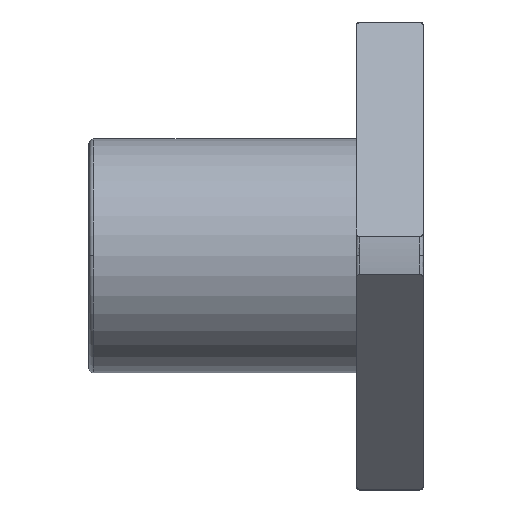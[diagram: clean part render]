
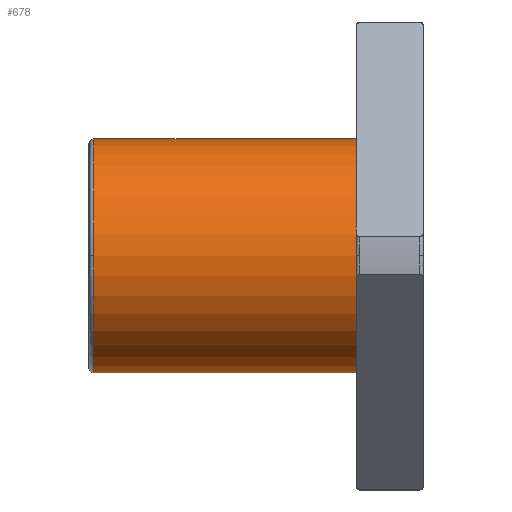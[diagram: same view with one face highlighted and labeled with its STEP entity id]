
A CAD part, top view. The second image highlights one B-rep face of the part: STEP entity #678.
In plain terms, the highlighted cylindrical face has radius 10.5 mm (diameter 21 mm), a partial arc.
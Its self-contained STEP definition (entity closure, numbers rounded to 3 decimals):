
#663 = PLANE('',#664);
#664 = AXIS2_PLACEMENT_3D('',#665,#666,#667);
#665 = CARTESIAN_POINT('',(-6.,15.6,0.));
#666 = DIRECTION('',(-1.,0.,0.));
#667 = DIRECTION('',(0.,-1.,0.));
#678 = ADVANCED_FACE('',(#679),#693,.T.);
#679 = FACE_BOUND('',#680,.T.);
#680 = EDGE_LOOP('',(#681,#716,#745,#774,#797));
#681 = ORIENTED_EDGE('',*,*,#682,.F.);
#682 = EDGE_CURVE('',#683,#685,#687,.T.);
#683 = VERTEX_POINT('',#684);
#684 = CARTESIAN_POINT('',(-29.55,10.5,0.));
#685 = VERTEX_POINT('',#686);
#686 = CARTESIAN_POINT('',(-6.,10.5,0.));
#687 = SURFACE_CURVE('',#688,(#692,#704),.PCURVE_S1.);
#688 = LINE('',#689,#690);
#689 = CARTESIAN_POINT('',(-17.775,10.5,0.));
#690 = VECTOR('',#691,1.);
#691 = DIRECTION('',(1.,0.,0.));
#692 = PCURVE('',#693,#698);
#693 = CYLINDRICAL_SURFACE('',#694,10.5);
#694 = AXIS2_PLACEMENT_3D('',#695,#696,#697);
#695 = CARTESIAN_POINT('',(-17.775,0.,0.));
#696 = DIRECTION('',(1.,0.,0.));
#697 = DIRECTION('',(-0.,1.,0.));
#698 = DEFINITIONAL_REPRESENTATION('',(#699),#703);
#699 = LINE('',#700,#701);
#700 = CARTESIAN_POINT('',(0.,0.));
#701 = VECTOR('',#702,1.);
#702 = DIRECTION('',(0.,1.));
#703 = ( GEOMETRIC_REPRESENTATION_CONTEXT(2) 
PARAMETRIC_REPRESENTATION_CONTEXT() REPRESENTATION_CONTEXT('2D SPACE',''
  ) );
#704 = PCURVE('',#705,#710);
#705 = CYLINDRICAL_SURFACE('',#706,10.5);
#706 = AXIS2_PLACEMENT_3D('',#707,#708,#709);
#707 = CARTESIAN_POINT('',(-17.775,0.,0.));
#708 = DIRECTION('',(1.,0.,0.));
#709 = DIRECTION('',(-0.,1.,0.));
#710 = DEFINITIONAL_REPRESENTATION('',(#711),#715);
#711 = LINE('',#712,#713);
#712 = CARTESIAN_POINT('',(6.283,0.));
#713 = VECTOR('',#714,1.);
#714 = DIRECTION('',(0.,1.));
#715 = ( GEOMETRIC_REPRESENTATION_CONTEXT(2) 
PARAMETRIC_REPRESENTATION_CONTEXT() REPRESENTATION_CONTEXT('2D SPACE',''
  ) );
#716 = ORIENTED_EDGE('',*,*,#717,.T.);
#717 = EDGE_CURVE('',#683,#718,#720,.T.);
#718 = VERTEX_POINT('',#719);
#719 = CARTESIAN_POINT('',(-29.55,0.,10.5));
#720 = SURFACE_CURVE('',#721,(#726,#733),.PCURVE_S1.);
#721 = CIRCLE('',#722,10.5);
#722 = AXIS2_PLACEMENT_3D('',#723,#724,#725);
#723 = CARTESIAN_POINT('',(-29.55,0.,0.));
#724 = DIRECTION('',(1.,0.,0.));
#725 = DIRECTION('',(-0.,1.,0.));
#726 = PCURVE('',#693,#727);
#727 = DEFINITIONAL_REPRESENTATION('',(#728),#732);
#728 = LINE('',#729,#730);
#729 = CARTESIAN_POINT('',(0.,-11.775));
#730 = VECTOR('',#731,1.);
#731 = DIRECTION('',(1.,0.));
#732 = ( GEOMETRIC_REPRESENTATION_CONTEXT(2) 
PARAMETRIC_REPRESENTATION_CONTEXT() REPRESENTATION_CONTEXT('2D SPACE',''
  ) );
#733 = PCURVE('',#734,#739);
#734 = TOROIDAL_SURFACE('',#735,10.05,0.45);
#735 = AXIS2_PLACEMENT_3D('',#736,#737,#738);
#736 = CARTESIAN_POINT('',(-29.55,0.,0.));
#737 = DIRECTION('',(1.,0.,0.));
#738 = DIRECTION('',(0.,0.,-1.));
#739 = DEFINITIONAL_REPRESENTATION('',(#740),#744);
#740 = LINE('',#741,#742);
#741 = CARTESIAN_POINT('',(1.571,6.283));
#742 = VECTOR('',#743,1.);
#743 = DIRECTION('',(1.,0.));
#744 = ( GEOMETRIC_REPRESENTATION_CONTEXT(2) 
PARAMETRIC_REPRESENTATION_CONTEXT() REPRESENTATION_CONTEXT('2D SPACE',''
  ) );
#745 = ORIENTED_EDGE('',*,*,#746,.T.);
#746 = EDGE_CURVE('',#718,#747,#749,.T.);
#747 = VERTEX_POINT('',#748);
#748 = CARTESIAN_POINT('',(-29.55,-10.5,0.));
#749 = SURFACE_CURVE('',#750,(#755,#762),.PCURVE_S1.);
#750 = CIRCLE('',#751,10.5);
#751 = AXIS2_PLACEMENT_3D('',#752,#753,#754);
#752 = CARTESIAN_POINT('',(-29.55,0.,0.));
#753 = DIRECTION('',(1.,0.,0.));
#754 = DIRECTION('',(-0.,1.,0.));
#755 = PCURVE('',#693,#756);
#756 = DEFINITIONAL_REPRESENTATION('',(#757),#761);
#757 = LINE('',#758,#759);
#758 = CARTESIAN_POINT('',(0.,-11.775));
#759 = VECTOR('',#760,1.);
#760 = DIRECTION('',(1.,0.));
#761 = ( GEOMETRIC_REPRESENTATION_CONTEXT(2) 
PARAMETRIC_REPRESENTATION_CONTEXT() REPRESENTATION_CONTEXT('2D SPACE',''
  ) );
#762 = PCURVE('',#763,#768);
#763 = TOROIDAL_SURFACE('',#764,10.05,0.45);
#764 = AXIS2_PLACEMENT_3D('',#765,#766,#767);
#765 = CARTESIAN_POINT('',(-29.55,0.,0.));
#766 = DIRECTION('',(1.,0.,0.));
#767 = DIRECTION('',(0.,0.,-1.));
#768 = DEFINITIONAL_REPRESENTATION('',(#769),#773);
#769 = LINE('',#770,#771);
#770 = CARTESIAN_POINT('',(1.571,6.283));
#771 = VECTOR('',#772,1.);
#772 = DIRECTION('',(1.,0.));
#773 = ( GEOMETRIC_REPRESENTATION_CONTEXT(2) 
PARAMETRIC_REPRESENTATION_CONTEXT() REPRESENTATION_CONTEXT('2D SPACE',''
  ) );
#774 = ORIENTED_EDGE('',*,*,#775,.F.);
#775 = EDGE_CURVE('',#776,#747,#778,.T.);
#776 = VERTEX_POINT('',#777);
#777 = CARTESIAN_POINT('',(-6.,-10.5,0.));
#778 = SURFACE_CURVE('',#779,(#783,#790),.PCURVE_S1.);
#779 = LINE('',#780,#781);
#780 = CARTESIAN_POINT('',(-17.775,-10.5,0.));
#781 = VECTOR('',#782,1.);
#782 = DIRECTION('',(-1.,-0.,-0.));
#783 = PCURVE('',#693,#784);
#784 = DEFINITIONAL_REPRESENTATION('',(#785),#789);
#785 = LINE('',#786,#787);
#786 = CARTESIAN_POINT('',(3.142,0.));
#787 = VECTOR('',#788,1.);
#788 = DIRECTION('',(0.,-1.));
#789 = ( GEOMETRIC_REPRESENTATION_CONTEXT(2) 
PARAMETRIC_REPRESENTATION_CONTEXT() REPRESENTATION_CONTEXT('2D SPACE',''
  ) );
#790 = PCURVE('',#705,#791);
#791 = DEFINITIONAL_REPRESENTATION('',(#792),#796);
#792 = LINE('',#793,#794);
#793 = CARTESIAN_POINT('',(3.142,0.));
#794 = VECTOR('',#795,1.);
#795 = DIRECTION('',(0.,-1.));
#796 = ( GEOMETRIC_REPRESENTATION_CONTEXT(2) 
PARAMETRIC_REPRESENTATION_CONTEXT() REPRESENTATION_CONTEXT('2D SPACE',''
  ) );
#797 = ORIENTED_EDGE('',*,*,#798,.F.);
#798 = EDGE_CURVE('',#685,#776,#799,.T.);
#799 = SURFACE_CURVE('',#800,(#805,#812),.PCURVE_S1.);
#800 = CIRCLE('',#801,10.5);
#801 = AXIS2_PLACEMENT_3D('',#802,#803,#804);
#802 = CARTESIAN_POINT('',(-6.,0.,0.));
#803 = DIRECTION('',(1.,0.,0.));
#804 = DIRECTION('',(-0.,1.,0.));
#805 = PCURVE('',#693,#806);
#806 = DEFINITIONAL_REPRESENTATION('',(#807),#811);
#807 = LINE('',#808,#809);
#808 = CARTESIAN_POINT('',(0.,11.775));
#809 = VECTOR('',#810,1.);
#810 = DIRECTION('',(1.,0.));
#811 = ( GEOMETRIC_REPRESENTATION_CONTEXT(2) 
PARAMETRIC_REPRESENTATION_CONTEXT() REPRESENTATION_CONTEXT('2D SPACE',''
  ) );
#812 = PCURVE('',#663,#813);
#813 = DEFINITIONAL_REPRESENTATION('',(#814),#822);
#814 = ( BOUNDED_CURVE() B_SPLINE_CURVE(2,(#815,#816,#817,#818,#819,#820
,#821),.UNSPECIFIED.,.T.,.F.) B_SPLINE_CURVE_WITH_KNOTS((1,2,2,2,2,1),(
    -2.094,0.,2.094,4.189,6.283,
8.378),.UNSPECIFIED.) CURVE() GEOMETRIC_REPRESENTATION_ITEM() 
RATIONAL_B_SPLINE_CURVE((1.,0.5,1.,0.5,1.,0.5,1.)) REPRESENTATION_ITEM(
  '') );
#815 = CARTESIAN_POINT('',(5.1,0.));
#816 = CARTESIAN_POINT('',(5.1,18.187));
#817 = CARTESIAN_POINT('',(20.85,9.093));
#818 = CARTESIAN_POINT('',(36.6,0.));
#819 = CARTESIAN_POINT('',(20.85,-9.093));
#820 = CARTESIAN_POINT('',(5.1,-18.187));
#821 = CARTESIAN_POINT('',(5.1,0.));
#822 = ( GEOMETRIC_REPRESENTATION_CONTEXT(2) 
PARAMETRIC_REPRESENTATION_CONTEXT() REPRESENTATION_CONTEXT('2D SPACE',''
  ) );
